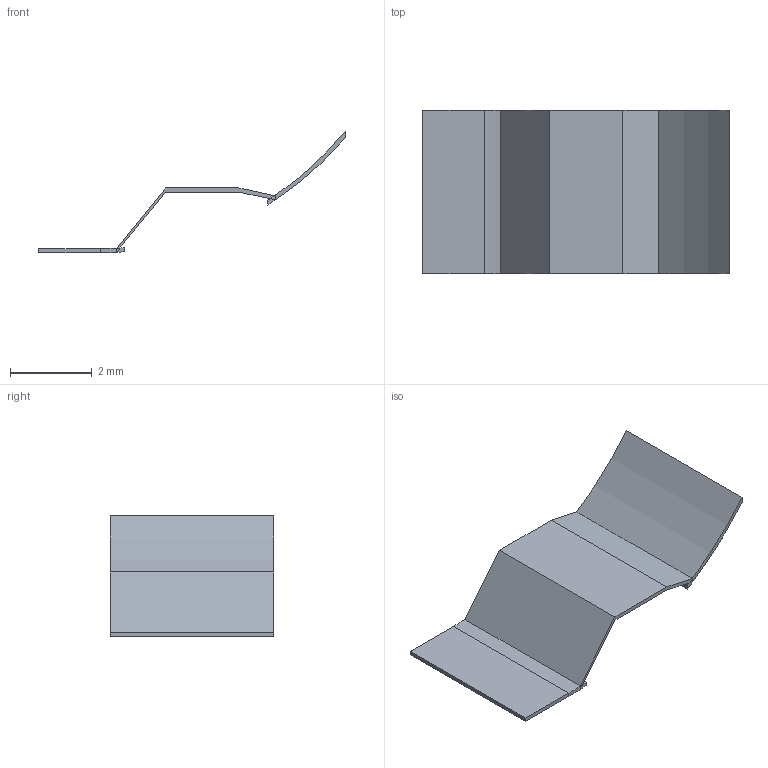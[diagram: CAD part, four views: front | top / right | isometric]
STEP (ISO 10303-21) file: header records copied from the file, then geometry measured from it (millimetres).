
FILE_DESCRIPTION(('Open CASCADE Model'),'2;1');
FILE_NAME('R36_STOCK_COAX_CURVED_LAND_STRAP_2_0p10_FINAL', '2026-09-15T14:35:40',('Author'),('Open CASCADE'), 'Open CASCADE STEP processor 7.9','build123d','Unknown');
FILE_SCHEMA(('AUTOMOTIVE_DESIGN { 1 0 10303 214 1 1 1 1 }'));
Length unit declared in the file: millimetre
Products named in the file (1): R36_STOCK_COAX_CURVED_LAND_STRAP_2_0p10_FINAL
Bounding box: 7.5 x 4 x 2.97 mm (x, y, z)
Volume: 3.4 mm3; surface area: 75.6 mm2
Topology: 1 solids, 1 shells, 36 faces, 78 edges, 44 vertices
Faces by surface type: plane 28, cylinder 8
Entity records: 1970 total; most frequent: CARTESIAN_POINT 373, DIRECTION 300, LINE 168, VECTOR 168, ORIENTED_EDGE 156, PCURVE 156, DEFINITIONAL_REPRESENTATION 156, EDGE_CURVE 78
